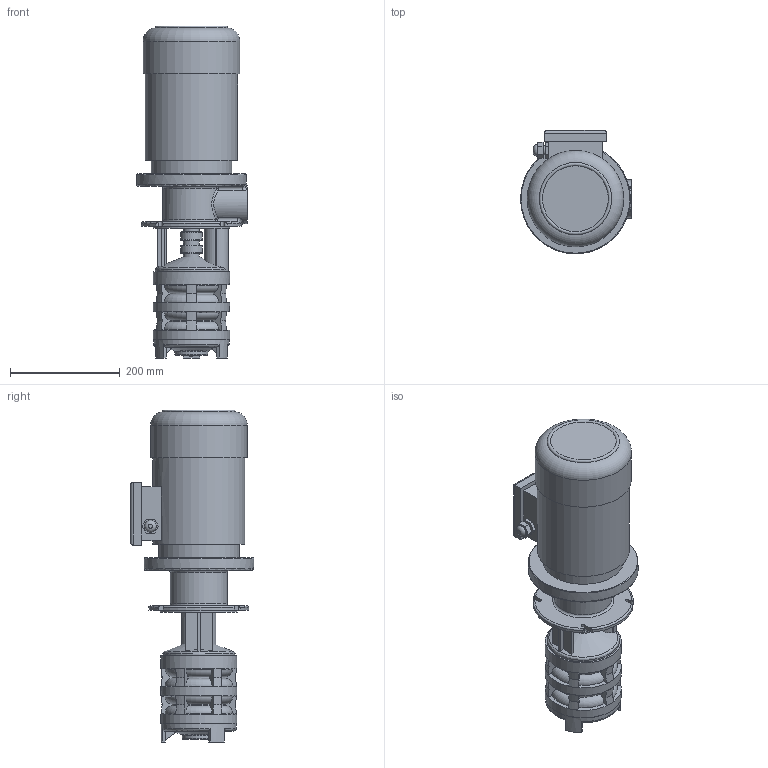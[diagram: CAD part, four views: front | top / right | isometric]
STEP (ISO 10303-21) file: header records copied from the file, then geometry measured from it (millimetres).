
FILE_DESCRIPTION(/* description */ ('Unknown'),/* implementation_level */ '2;1');
FILE_NAME(/* name */ 'gp3-240',/* time_stamp */ '2025-06-04T09:20:57+03:00',/* author */ ('Unknown'),/* organization */ ('Unknown'),/* preprocessor_version */ 'ST-DEVELOPER v16.7',/* originating_system */ 'DEX',/* authorisation */ $);
FILE_SCHEMA (('AUTOMOTIVE_DESIGN {1 0 10303 214 3 1 1}'));
Length unit declared in the file: millimetre
Products named in the file (1): gp3-240
Bounding box: 202 x 225 x 605.34 mm (x, y, z)
Volume: 10501913 mm3; surface area: 466679.9 mm2
Topology: 1 solids, 1 shells, 385 faces, 994 edges, 642 vertices
Faces by surface type: plane 134, bspline 85, cylinder 79, cone 47, torus 40
Full cylindrical faces by diameter (mm): 17 x1, 21.5 x1, 29 x3, 33 x2, 35 x2, 39 x2, 40.5 x2, 45 x1, 47 x1, 60 x1, 137 x1, 139 x3, 140 x1, 168.001 x1, 176 x1, 200 x1
Entity records: 14440 total; most frequent: CARTESIAN_POINT 5681, ORIENTED_EDGE 1864, DIRECTION 1643, EDGE_CURVE 932, VERTEX_POINT 632, AXIS2_PLACEMENT_3D 617, EDGE_LOOP 472, FACE_BOUND 472
